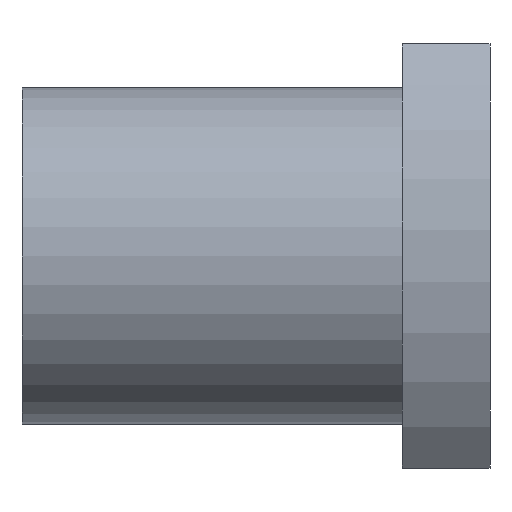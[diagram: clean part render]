
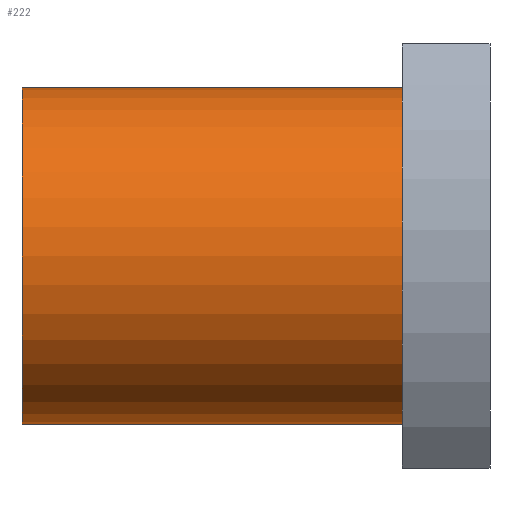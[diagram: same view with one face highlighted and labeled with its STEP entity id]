
A CAD part, front view. The second image highlights one B-rep face of the part: STEP entity #222.
In plain terms, the highlighted cylindrical face has radius 11.5 mm (diameter 23 mm), a full revolution.
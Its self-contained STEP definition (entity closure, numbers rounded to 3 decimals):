
#51=ORIENTED_EDGE('',*,*,#99,.T.);
#52=ORIENTED_EDGE('',*,*,#100,.T.);
#99=EDGE_CURVE('',#123,#123,#141,.T.);
#100=EDGE_CURVE('',#124,#124,#142,.F.);
#123=VERTEX_POINT('',#372);
#124=VERTEX_POINT('',#374);
#141=CIRCLE('',#257,11.5);
#142=CIRCLE('',#258,11.5);
#156=EDGE_LOOP('',(#51));
#157=EDGE_LOOP('',(#52));
#186=FACE_BOUND('',#156,.T.);
#187=FACE_BOUND('',#157,.T.);
#212=CYLINDRICAL_SURFACE('',#256,11.5);
#222=ADVANCED_FACE('',(#186,#187),#212,.T.);
#256=AXIS2_PLACEMENT_3D('',#370,#300,#301);
#257=AXIS2_PLACEMENT_3D('',#371,#302,#303);
#258=AXIS2_PLACEMENT_3D('',#373,#304,#305);
#300=DIRECTION('',(1.,0.,0.));
#301=DIRECTION('',(0.,0.,-1.));
#302=DIRECTION('',(1.,0.,0.));
#303=DIRECTION('',(0.,0.,-1.));
#304=DIRECTION('',(1.,0.,0.));
#305=DIRECTION('',(0.,0.,-1.));
#370=CARTESIAN_POINT('',(-16.,0.,0.));
#371=CARTESIAN_POINT('',(-16.,0.,0.));
#372=CARTESIAN_POINT('',(-16.,0.,-11.5));
#373=CARTESIAN_POINT('',(10.,0.,0.));
#374=CARTESIAN_POINT('',(10.,0.,-11.5));
